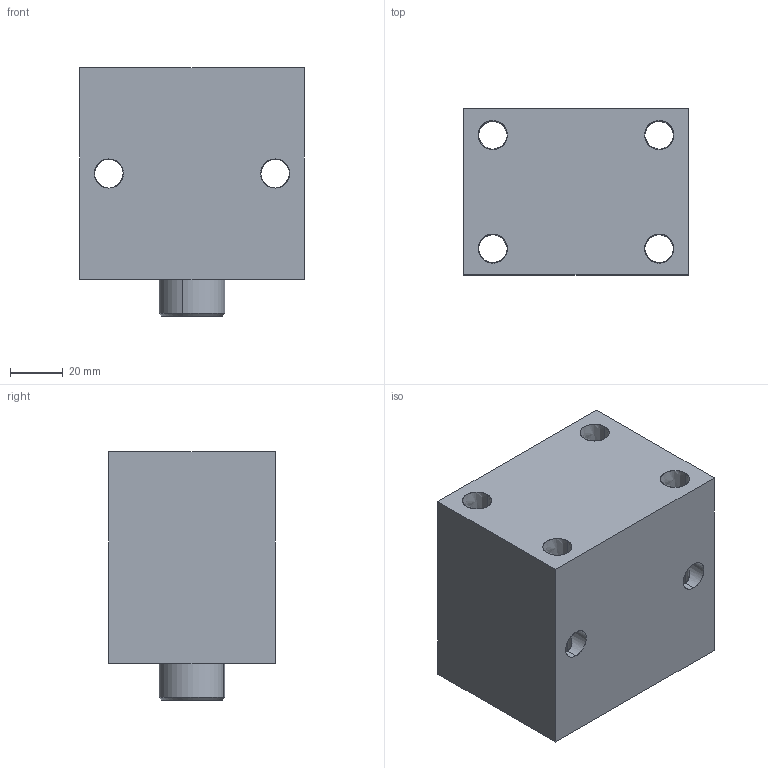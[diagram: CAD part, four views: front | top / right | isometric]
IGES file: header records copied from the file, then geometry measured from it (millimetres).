
Start section: SolidWorks IGES file using analytic representation for surfaces
Global section: file name: D:\karuppas\Clasp\3D model\Block cylinder B01C-Female thread\B01C-325F\Block cylinder_B01C-325F.IGS; native system: SolidWorks 2017; preprocessor: SolidWorks 2017; author: pc; date: 220709.235916; units: millimetre
Bounding box: 85 x 63 x 94 mm (x, y, z)
Surface area: 59071 mm2 (no closed solid volume)
Topology: 0 solids, 0 shells, 347 faces, 5291 edges, 5285 vertices
Faces by surface type: bspline 295, revolution 52
